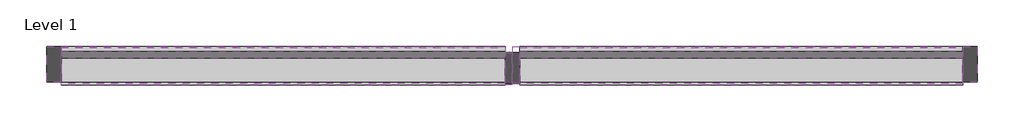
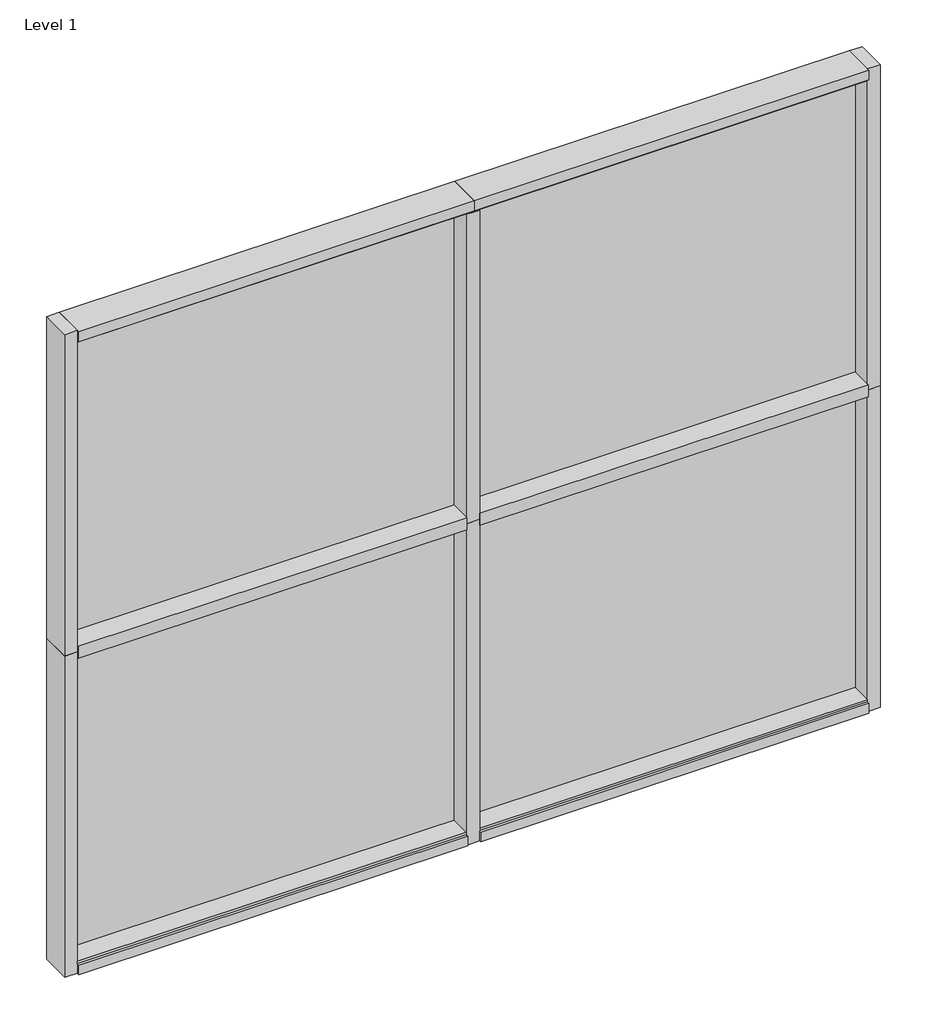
# One storey: 12 members, 4 plates.
"""IFC4 building model written with IfcOpenShell, lengths in millimetres."""

import ifcopenshell
import ifcopenshell.guid

model = None  # the IFC model being written
_history = None  # IfcOwnerHistory: only IFC2X3 demands one
_inside = {}  # id of a spatial element -> (the spatial element, [elements in it])
_under = {}  # id of a project, library or spatial element -> (it, [spatial elements below it])
_declared = {}  # id of a project -> (the project, [libraries it declares])
_typed = {}  # id of a type object -> (the type object, [elements of that type])
_made_of = {}  # id of a material, layer set ... -> (it, [elements and type objects made of it])


def new_model(schema):
    """Start an empty IFC model of exactly this schema.

    Asked for "IFC4X3", IfcOpenShell would pick the latest addendum, in which some entities
    have other attributes; the version numbers below select the first issue.
    IFC2X3 requires an IfcOwnerHistory on every rooted entity: one is made here for all.
    """
    global model, _history
    if schema == "IFC4X3":
        model = ifcopenshell.file(schema_version=(4, 3, 0, 0))
    else:
        model = ifcopenshell.file(schema=schema)
    _inside.clear()
    _under.clear()
    _declared.clear()
    _typed.clear()
    _made_of.clear()
    _history = None
    if model.schema == "IFC2X3":
        org = make("IfcOrganization", Name="unknown")
        user = make(
            "IfcPersonAndOrganization",
            ThePerson=make("IfcPerson", FamilyName="unknown"),
            TheOrganization=org,
        )
        app = make(
            "IfcApplication",
            ApplicationDeveloper=org,
            Version="unknown",
            ApplicationFullName="unknown",
            ApplicationIdentifier="unknown",
        )
        _history = make(
            "IfcOwnerHistory",
            OwningUser=user,
            OwningApplication=app,
            ChangeAction="ADDED",
            CreationDate=0,
        )
    return model


def make(cls, **values):
    """One entity of the class cls with the attributes given. An attribute that is None is left unset."""
    return model.create_entity(
        cls, **{name: value for name, value in values.items() if value is not None}
    )


def rooted(cls, **values):
    """An entity with a GlobalId (a new one), such as an element, a storey or a relation."""
    return make(cls, GlobalId=ifcopenshell.guid.new(), OwnerHistory=_history, **values)


def si_unit(unit_type, name, prefix=None):
    """IfcSIUnit, for example si_unit("LENGTHUNIT", "METRE", prefix="MILLI")."""
    return make("IfcSIUnit", UnitType=unit_type, Prefix=prefix, Name=name)


def assignment(units):
    """IfcUnitAssignment: the units of a project."""
    return None if units is None else make("IfcUnitAssignment", Units=units)


def point(xyz):
    """IfcCartesianPoint."""
    return None if xyz is None else make("IfcCartesianPoint", Coordinates=xyz)


def direction(xyz):
    """IfcDirection."""
    return None if xyz is None else make("IfcDirection", DirectionRatios=xyz)


def frame(location, z_axis=None, x_axis=None):
    """IfcAxis2Placement3D, a coordinate frame: its origin and axes. An axis left out is left unset."""
    return make(
        "IfcAxis2Placement3D",
        Location=point(location),
        Axis=direction(z_axis),
        RefDirection=direction(x_axis),
    )


def origin():
    """The frame at (0, 0, 0) with its axes left unset."""
    return frame((0.0, 0.0, 0.0))


def origin_with_axes():
    """The frame at (0, 0, 0) with the z axis (0, 0, 1) and the x axis (1, 0, 0) written out."""
    return frame((0.0, 0.0, 0.0), z_axis=(0.0, 0.0, 1.0), x_axis=(1.0, 0.0, 0.0))


def place(relative_to, where):
    """IfcLocalPlacement: puts the frame where relative to a parent placement (None: the world)."""
    return make(
        "IfcLocalPlacement", PlacementRelTo=relative_to, RelativePlacement=where
    )


def context(
    kind, dimensions, precision=None, world=None, true_north=None, identifier=None
):
    """IfcGeometricRepresentationContext, for example the 3D "Model" context."""
    return make(
        "IfcGeometricRepresentationContext",
        ContextIdentifier=identifier,
        ContextType=kind,
        CoordinateSpaceDimension=dimensions,
        Precision=precision,
        WorldCoordinateSystem=world,
        TrueNorth=true_north,
    )


def project(units=None, contexts=None):
    """IfcProject with its units and contexts."""
    return rooted(
        "IfcProject",
        Name="project",
        RepresentationContexts=contexts,
        UnitsInContext=assignment(units),
    )


def spatial(cls, under=None, at=None, **own):
    """A site, building, storey or space (cls), placed at a placement, below another one or the project."""
    s = rooted(cls, ObjectPlacement=at, **own)
    if under is not None:
        _under.setdefault(under.id(), (under, []))[1].append(s)
    return s


def polyline(points):
    """IfcPolyline through the points."""
    return make("IfcPolyline", Points=[point(p) for p in points])


def outline(outer, holes=None, kind="AREA"):
    """IfcArbitraryClosedProfileDef: a profile drawn as a closed curve; with holes, ...WithVoids."""
    if holes is None:
        return make("IfcArbitraryClosedProfileDef", ProfileType=kind, OuterCurve=outer)
    return make(
        "IfcArbitraryProfileDefWithVoids",
        ProfileType=kind,
        OuterCurve=outer,
        InnerCurves=holes,
    )


def extrude(swept, where, along, depth):
    """IfcExtrudedAreaSolid: the profile swept, set in the frame where, extruded along a direction by depth."""
    return make(
        "IfcExtrudedAreaSolid",
        SweptArea=swept,
        Position=where,
        ExtrudedDirection=direction(along),
        Depth=depth,
    )


def shape(context_of_items, identifier, shape_type, items):
    """IfcShapeRepresentation: the items that make up one representation, for example the "Body"."""
    return make(
        "IfcShapeRepresentation",
        ContextOfItems=context_of_items,
        RepresentationIdentifier=identifier,
        RepresentationType=shape_type,
        Items=items,
    )


def source(mapping_origin, context_of_items, identifier, shape_type, items):
    """IfcRepresentationMap: a shape defined once, which mapped items show again and again."""
    return make(
        "IfcRepresentationMap",
        MappingOrigin=mapping_origin,
        MappedRepresentation=shape(context_of_items, identifier, shape_type, items),
    )


def transform(
    local_origin,
    x_axis=None,
    y_axis=None,
    z_axis=None,
    scale=None,
    scale2=None,
    scale3=None,
    uniform=True,
):
    """IfcCartesianTransformationOperator3D, or its non-uniform kind. x_axis, y_axis, z_axis: its Axis1, 2, 3."""
    if uniform:
        return make(
            "IfcCartesianTransformationOperator3D",
            Axis1=direction(x_axis),
            Axis2=direction(y_axis),
            LocalOrigin=point(local_origin),
            Scale=scale,
            Axis3=direction(z_axis),
        )
    return make(
        "IfcCartesianTransformationOperator3DnonUniform",
        Axis1=direction(x_axis),
        Axis2=direction(y_axis),
        LocalOrigin=point(local_origin),
        Scale=scale,
        Axis3=direction(z_axis),
        Scale2=scale2,
        Scale3=scale3,
    )


def mapped(mapping_source, mapping_target):
    """IfcMappedItem: shows the shape of a source again, moved by a transform."""
    return make(
        "IfcMappedItem", MappingSource=mapping_source, MappingTarget=mapping_target
    )


def made_of(thing, what):
    """Note that an element or type object is made of a material, layer set ...; save() writes the relation."""
    if what is not None:
        _made_of.setdefault(what.id(), (what, []))[1].append(thing)
    return thing


def element(
    cls,
    number,
    at=None,
    inside=None,
    cuts=None,
    type_object=None,
    material=None,
    context=None,
    identifier="Body",
    shape_type=None,
    held_by="IfcProductDefinitionShape",
    body=None,
    shapes=None,
    **own,
):
    """One element of the class cls, such as IfcWall. Its Tag is "e" and its number.

    at: its placement. inside: the storey or other place that contains it. cuts: it is an
    opening in that element (IfcRelVoidsElement). A single representation is given by context,
    identifier, shape_type and body (its items); several are given by shapes. held_by: the class
    of the entity that holds the representations. save() writes the other relations.
    """
    e = rooted(cls, Tag="e%d" % number, ObjectPlacement=at, **own)
    if body is not None:
        shapes = [shape(context, identifier, shape_type, body)]
    if shapes is not None:
        e.Representation = make(held_by, Representations=shapes)
    if inside is not None:
        _inside.setdefault(inside.id(), (inside, []))[1].append(e)
    if cuts is not None:
        rooted(
            "IfcRelVoidsElement", RelatingBuildingElement=cuts, RelatedOpeningElement=e
        )
    if type_object is not None:
        _typed.setdefault(type_object.id(), (type_object, []))[1].append(e)
    return made_of(e, material)


def aggregate(whole, parts):
    """IfcRelAggregates: a whole, such as a stair, and the parts it consists of."""
    return rooted("IfcRelAggregates", RelatingObject=whole, RelatedObjects=parts)


def save(model, path):
    """Write the relations noted so far, then the file.

    IfcRelAggregates (storeys below a building ...), IfcRelContainedInSpatialStructure (elements
    in a storey), IfcRelDefinesByType, IfcRelAssociatesMaterial and IfcRelDeclares: one each for
    every whole, place, type object, material and project.
    """
    for whole, parts in _under.values():
        aggregate(whole, parts)
    for where, things in _inside.values():
        rooted(
            "IfcRelContainedInSpatialStructure",
            RelatedElements=things,
            RelatingStructure=where,
        )
    for kind, things in _typed.values():
        rooted("IfcRelDefinesByType", RelatedObjects=things, RelatingType=kind)
    for what, things in _made_of.values():
        rooted("IfcRelAssociatesMaterial", RelatedObjects=things, RelatingMaterial=what)
    for by, libraries in _declared.values():
        rooted("IfcRelDeclares", RelatingContext=by, RelatedDefinitions=libraries)
    model.write(path)


def rectangular_mullion_kawneer_pg123_head_d7d38b5f(model_context):
    return source(origin(), model_context, "Body", "SweptSolid", [
        extrude(outline(polyline([(0.0, 76.2), (0.0, -76.2), (-57.15, -76.2), (-57.15, 64.4779044), (-46.0319821, 64.4779044), (-46.0319821, 76.2), (0.0, 76.2)])), frame((0.0, 0.0, -1772.85), z_axis=(0.0, 0.0, 1.0), x_axis=(1.0, 0.0, 0.0)), (0.0, 0.0, 1.0), 1772.85),
    ])


def rectangular_mullion_kawneer_pg123_head_214c1f87(model_context):
    return source(origin(), model_context, "Body", "SweptSolid", [
        extrude(outline(polyline([(0.0, 76.2), (0.0, -76.2), (-57.15, -76.2), (-57.15, 64.4779044), (-46.0319821, 64.4779044), (-46.0319821, 76.2), (0.0, 76.2)])), frame((0.0, 0.0, -1770.45), z_axis=(0.0, 0.0, 1.0), x_axis=(1.0, 0.0, 0.0)), (0.0, 0.0, 1.0), 1770.45),
    ])


def rectangular_mullion_kawneer_pg123_horizontal_c38472fa(model_context):
    return source(origin(), model_context, "Body", "SweptSolid", [
        extrude(outline(polyline([(-28.575, 69.2403998), (28.575, 69.2403998), (28.575, -71.4267552), (-28.575, -71.4267552), (-28.575, 69.2403998)])), frame((0.0, 0.0, -1744.275), z_axis=(0.0, 0.0, 1.0), x_axis=(1.0, 0.0, 0.0)), (0.0, 0.0, 1.0), 1744.275),
    ])


def rectangular_mullion_kawneer_pg123_horizontal_a52f8a9e(model_context):
    return source(origin(), model_context, "Body", "SweptSolid", [
        extrude(outline(polyline([(-28.575, 69.2403998), (28.575, 69.2403998), (28.575, -71.4267552), (-28.575, -71.4267552), (-28.575, 69.2403998)])), frame((0.0, 0.0, -1741.875), z_axis=(0.0, 0.0, 1.0), x_axis=(1.0, 0.0, 0.0)), (0.0, 0.0, 1.0), 1741.875),
    ])


def rectangular_mullion_kawneer_pg123_jamb_1_d5503470(model_context):
    return source(origin(), model_context, "Body", "SweptSolid", [
        extrude(outline(polyline([(0.0, 64.4779044), (0.0, -76.2), (-57.15, -76.2), (-57.15, 64.4779044), (0.0, 64.4779044)])), frame((0.0, 0.0, -1524.0), z_axis=(0.0, 0.0, 1.0), x_axis=(1.0, 0.0, 0.0)), (0.0, 0.0, 1.0), 1524.0),
    ])


def rectangular_mullion_kawneer_pg123_sill_4414b554(model_context):
    return source(origin(), model_context, "Body", "SweptSolid", [
        extrude(outline(polyline([(0.0, 76.2), (0.0, -76.2), (-57.15, -76.2), (-57.15, 64.4779044), (-46.0319821, 64.4779044), (-46.0319821, 76.2), (0.0, 76.2)])), frame((0.0, 0.0, -1744.275), z_axis=(0.0, 0.0, 1.0), x_axis=(1.0, 0.0, 0.0)), (0.0, 0.0, 1.0), 1744.275),
    ])


def rectangular_mullion_kawneer_pg123_sill_8be73952(model_context):
    return source(origin(), model_context, "Body", "SweptSolid", [
        extrude(outline(polyline([(0.0, 76.2), (0.0, -76.2), (-57.15, -76.2), (-57.15, 64.4779044), (-46.0319821, 64.4779044), (-46.0319821, 76.2), (0.0, 76.2)])), frame((0.0, 0.0, -1741.875), z_axis=(0.0, 0.0, 1.0), x_axis=(1.0, 0.0, 0.0)), (0.0, 0.0, 1.0), 1741.875),
    ])


def rectangular_mullion_kawneer_pg123_vertical_7be9c555(model_context):
    return source(origin(), model_context, "Body", "SweptSolid", [
        extrude(outline(polyline([(-28.575, 69.2403998), (28.575, 69.2403998), (28.575, -51.4096002), (-28.575, -51.4096002), (-28.575, 69.2403998)])), frame((0.0, 0.0, -1524.0), z_axis=(0.0, 0.0, 1.0), x_axis=(1.0, 0.0, 0.0)), (0.0, 0.0, 1.0), 1524.0),
    ])


def rectangular_mullion_kawneer_pg123_vertical_2a7591f2(model_context):
    return source(origin(), model_context, "Body", "SweptSolid", [
        extrude(outline(polyline([(-28.575, 69.2403998), (28.575, 69.2403998), (28.575, -51.4096002), (-28.575, -51.4096002), (-28.575, 69.2403998)])), frame((0.0, 0.0, -1466.85), z_axis=(0.0, 0.0, 1.0), x_axis=(1.0, 0.0, 0.0)), (0.0, 0.0, 1.0), 1466.85),
    ])


def system_panel_glazed_caecf980(model_context):
    return source(origin(), model_context, "Body", "SweptSolid", [
        extrude(outline(polyline([(872.1375, 30.6), (-872.1375, 30.6), (-872.1375, 55.6), (872.1375, 55.6), (872.1375, 30.6)])), origin_with_axes(), (0.0, 0.0, 1.0), 1438.275),
    ])


def system_panel_glazed_4e3a185f(model_context):
    return source(origin(), model_context, "Body", "SweptSolid", [
        extrude(outline(polyline([(870.9375, 30.6), (-870.9375, 30.6), (-870.9375, 55.6), (870.9375, 55.6), (870.9375, 30.6)])), origin_with_axes(), (0.0, 0.0, 1.0), 1438.275),
    ])


model = new_model("IFC4")

# Units and contexts
model_context = context("Model", 3, world=origin())
ifc_project = project(units=[si_unit("LENGTHUNIT", "METRE", prefix="MILLI")], contexts=[model_context])

# Site, building, storey
site = spatial("IfcSite", under=ifc_project)
building = spatial("IfcBuilding", under=site)
storey = spatial("IfcBuildingStorey", under=building, Name="Level 1", Elevation=0.0)

# Members
placement = place(None, origin())
rectangular_mullion_kawneer_pg123_head_shape = rectangular_mullion_kawneer_pg123_head_d7d38b5f(model_context)
element("IfcMember", 1, ObjectType="Rectangular Mullion : Kawneer-PG123_Head", at=placement, inside=storey, context=model_context, shape_type="MappedRepresentation", body=[
    mapped(rectangular_mullion_kawneer_pg123_head_shape, transform((146.2953537, -1938.3742527, 3048.0), x_axis=(0.0, 0.0, 1.0), y_axis=(0.0, -1.0, 0.0), z_axis=(1.0, 0.0, 0.0))),
])
rectangular_mullion_kawneer_pg123_head_2_shape = rectangular_mullion_kawneer_pg123_head_214c1f87(model_context)
element("IfcMember", 2, ObjectType="Rectangular Mullion : Kawneer-PG123_Head", at=placement, inside=storey, context=model_context, shape_type="MappedRepresentation", body=[
    mapped(rectangular_mullion_kawneer_pg123_head_2_shape, transform((1916.7453537, -1938.3742527, 3048.0), x_axis=(0.0, 0.0, 1.0), y_axis=(0.0, -1.0, 0.0), z_axis=(1.0, 0.0, 0.0))),
])
rectangular_mullion_kawneer_pg123_horizontal_shape = rectangular_mullion_kawneer_pg123_horizontal_c38472fa(model_context)
element("IfcMember", 3, ObjectType="Rectangular Mullion : Kawneer-PG123_Horizontal", at=placement, inside=storey, context=model_context, shape_type="MappedRepresentation", body=[
    mapped(rectangular_mullion_kawneer_pg123_horizontal_shape, transform((117.7203537, -1938.3742527, 1524.0), x_axis=(0.0, 0.0, 1.0), y_axis=(0.0, -1.0, 0.0), z_axis=(1.0, 0.0, 0.0))),
])
rectangular_mullion_kawneer_pg123_horizontal_2_shape = rectangular_mullion_kawneer_pg123_horizontal_a52f8a9e(model_context)
element("IfcMember", 4, ObjectType="Rectangular Mullion : Kawneer-PG123_Horizontal", at=placement, inside=storey, context=model_context, shape_type="MappedRepresentation", body=[
    mapped(rectangular_mullion_kawneer_pg123_horizontal_2_shape, transform((1916.7453537, -1938.3742527, 1524.0), x_axis=(0.0, 0.0, 1.0), y_axis=(0.0, -1.0, 0.0), z_axis=(1.0, 0.0, 0.0))),
])
rectangular_mullion_kawneer_pg123_jamb_1_shape = rectangular_mullion_kawneer_pg123_jamb_1_d5503470(model_context)
element("IfcMember", 5, ObjectType="Rectangular Mullion : Kawneer-PG123_Jamb 1", at=placement, inside=storey, context=model_context, shape_type="MappedRepresentation", body=[
    mapped(rectangular_mullion_kawneer_pg123_jamb_1_shape, transform((-1683.7046463, -1938.3742527, 3048.0), x_axis=(-1.0, 0.0, 0.0), y_axis=(0.0, -1.0, 0.0), z_axis=(0.0, 0.0, 1.0))),
])
element("IfcMember", 6, ObjectType="Rectangular Mullion : Kawneer-PG123_Jamb 1", at=placement, inside=storey, context=model_context, shape_type="MappedRepresentation", body=[
    mapped(rectangular_mullion_kawneer_pg123_jamb_1_shape, transform((-1683.7046463, -1938.3742527, 1524.0), x_axis=(-1.0, 0.0, 0.0), y_axis=(0.0, -1.0, 0.0), z_axis=(0.0, 0.0, 1.0))),
])
element("IfcMember", 7, ObjectType="Rectangular Mullion : Kawneer-PG123_Jamb 2", at=placement, inside=storey, context=model_context, shape_type="MappedRepresentation", body=[
    mapped(rectangular_mullion_kawneer_pg123_jamb_1_shape, transform((1973.8953537, -1938.3742527, 0.0), x_axis=(1.0, 0.0, 0.0), y_axis=(0.0, -1.0, 0.0), z_axis=(0.0, 0.0, -1.0))),
])
element("IfcMember", 8, ObjectType="Rectangular Mullion : Kawneer-PG123_Jamb 2", at=placement, inside=storey, context=model_context, shape_type="MappedRepresentation", body=[
    mapped(rectangular_mullion_kawneer_pg123_jamb_1_shape, transform((1973.8953537, -1938.3742527, 1524.0), x_axis=(1.0, 0.0, 0.0), y_axis=(0.0, -1.0, 0.0), z_axis=(0.0, 0.0, -1.0))),
])
rectangular_mullion_kawneer_pg123_sill_shape = rectangular_mullion_kawneer_pg123_sill_4414b554(model_context)
element("IfcMember", 9, ObjectType="Rectangular Mullion : Kawneer-PG123_Sill", at=placement, inside=storey, context=model_context, shape_type="MappedRepresentation", body=[
    mapped(rectangular_mullion_kawneer_pg123_sill_shape, transform((-1626.5546463, -1938.3742527, 0.0), x_axis=(0.0, 0.0, -1.0), y_axis=(0.0, -1.0, 0.0), z_axis=(-1.0, 0.0, 0.0))),
])
rectangular_mullion_kawneer_pg123_sill_2_shape = rectangular_mullion_kawneer_pg123_sill_8be73952(model_context)
element("IfcMember", 10, ObjectType="Rectangular Mullion : Kawneer-PG123_Sill", at=placement, inside=storey, context=model_context, shape_type="MappedRepresentation", body=[
    mapped(rectangular_mullion_kawneer_pg123_sill_2_shape, transform((174.8703537, -1938.3742527, 0.0), x_axis=(0.0, 0.0, -1.0), y_axis=(0.0, -1.0, 0.0), z_axis=(-1.0, 0.0, 0.0))),
])
rectangular_mullion_kawneer_pg123_vertical_shape = rectangular_mullion_kawneer_pg123_vertical_7be9c555(model_context)
element("IfcMember", 11, ObjectType="Rectangular Mullion : Kawneer-PG123_Vertical", at=placement, inside=storey, context=model_context, shape_type="MappedRepresentation", body=[
    mapped(rectangular_mullion_kawneer_pg123_vertical_shape, transform((146.2953537, -1938.3742527, 0.0), x_axis=(1.0, 0.0, 0.0), y_axis=(0.0, -1.0, 0.0), z_axis=(0.0, 0.0, -1.0))),
])
rectangular_mullion_kawneer_pg123_vertical_2_shape = rectangular_mullion_kawneer_pg123_vertical_2a7591f2(model_context)
element("IfcMember", 12, ObjectType="Rectangular Mullion : Kawneer-PG123_Vertical", at=placement, inside=storey, context=model_context, shape_type="MappedRepresentation", body=[
    mapped(rectangular_mullion_kawneer_pg123_vertical_2_shape, transform((146.2953537, -1938.3742527, 1524.0), x_axis=(1.0, 0.0, 0.0), y_axis=(0.0, -1.0, 0.0), z_axis=(0.0, 0.0, -1.0))),
])

# Plates
system_panel_glazed_shape = system_panel_glazed_caecf980(model_context)
element("IfcPlate", 13, ObjectType="System Panel : Glazed", at=placement, inside=storey, context=model_context, shape_type="MappedRepresentation", body=[
    mapped(system_panel_glazed_shape, transform((-754.4171463, -1938.3742527, 57.15), x_axis=(1.0, 0.0, 0.0), y_axis=(0.0, 1.0, 0.0), z_axis=(0.0, 0.0, 1.0))),
])
element("IfcPlate", 14, ObjectType="System Panel : Glazed", at=placement, inside=storey, context=model_context, shape_type="MappedRepresentation", body=[
    mapped(system_panel_glazed_shape, transform((-754.4171463, -1938.3742527, 1552.575), x_axis=(1.0, 0.0, 0.0), y_axis=(0.0, 1.0, 0.0), z_axis=(0.0, 0.0, 1.0))),
])
system_panel_glazed_2_shape = system_panel_glazed_4e3a185f(model_context)
element("IfcPlate", 15, ObjectType="System Panel : Glazed", at=placement, inside=storey, context=model_context, shape_type="MappedRepresentation", body=[
    mapped(system_panel_glazed_2_shape, transform((1045.8078537, -1938.3742527, 57.15), x_axis=(1.0, 0.0, 0.0), y_axis=(0.0, 1.0, 0.0), z_axis=(0.0, 0.0, 1.0))),
])
element("IfcPlate", 16, ObjectType="System Panel : Glazed", at=placement, inside=storey, context=model_context, shape_type="MappedRepresentation", body=[
    mapped(system_panel_glazed_2_shape, transform((1045.8078537, -1938.3742527, 1552.575), x_axis=(1.0, 0.0, 0.0), y_axis=(0.0, 1.0, 0.0), z_axis=(0.0, 0.0, 1.0))),
])

save(model, "model.ifc")
